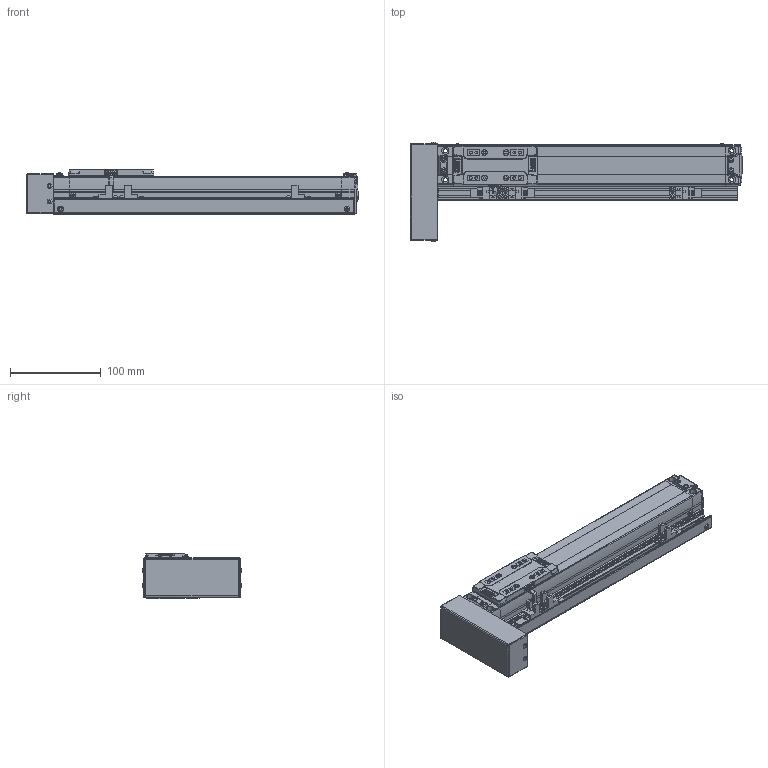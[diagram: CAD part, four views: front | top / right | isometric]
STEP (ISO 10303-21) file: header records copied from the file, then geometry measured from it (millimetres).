
FILE_DESCRIPTION(('STEP AP214'),'1');
FILE_NAME('Z:/Web/3D/SAN45/2013.ver/STP/SAN45-200PR+3SR.stp','2013-05-15T00:30:45',(' '),(' '),'Spatial InterOp 3D',' ',' ');
FILE_SCHEMA(('automotive_design'));
Length unit declared in the file: millimetre
Products named in the file (46): BODY-SAN45; REAR-SAN45; RRCV-SAN45; BHCS M3 x 6L; BHCS M3 X 6L; FRONT-SAN45; SHAFT; RN8 x 0.75; SSFX-SAN45; SLIDE-SAN45; SLCV-IM45; FHCS M3 x 6L; BTCV-SAN45; SRL-16x17-380L; EE-SX674; SBK-SX674-352; SDG-SA45; SCREW M3 x 5L
Bounding box: 366.15 x 110.13 x 50 mm (x, y, z)
Volume: 785993.6 mm3; surface area: 175365.6 mm2
Topology: 46 solids, 46 shells, 2323 faces, 5999 edges, 3854 vertices
Faces by surface type: plane 1288, cylinder 725, cone 144, sphere 84, bspline 44, torus 32, extrusion 6
Entity records: 94115 total; most frequent: CARTESIAN_POINT 16796, DIRECTION 12488, ORIENTED_EDGE 11862, EDGE_CURVE 5931, AXIS2_PLACEMENT_3D 4359, VERTEX_POINT 3854, VECTOR 3770, LINE 3764
